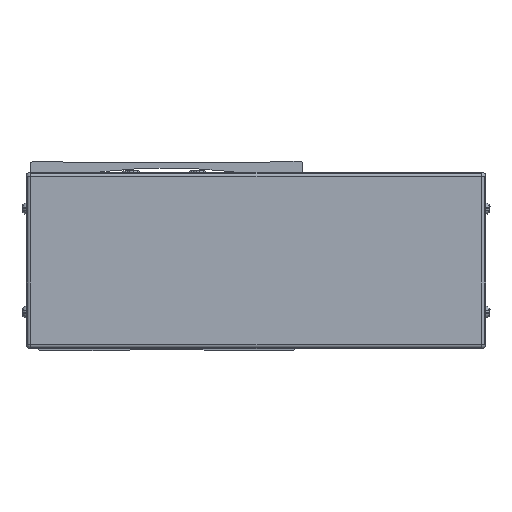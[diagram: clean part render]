
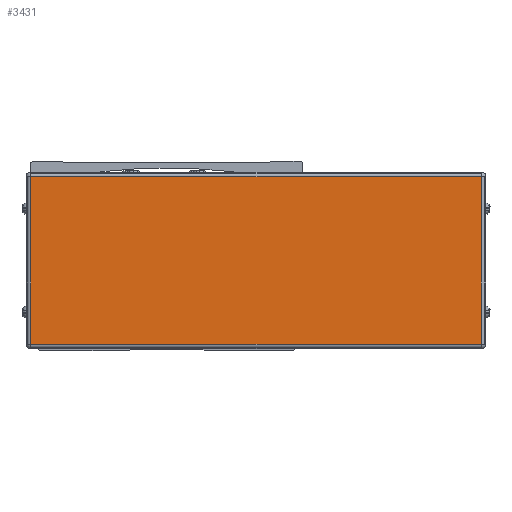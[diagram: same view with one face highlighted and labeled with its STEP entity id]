
A CAD part, front view. The second image highlights one B-rep face of the part: STEP entity #3431.
In plain terms, the highlighted planar face has unit normal (0, -1, 0).
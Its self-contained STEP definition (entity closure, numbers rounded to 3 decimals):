
#3431=ADVANCED_FACE('',(#8761),#8762,.T.);
#8761=FACE_OUTER_BOUND('',#16667,.T.);
#8762=PLANE('',#16668);
#16667=EDGE_LOOP('',(#27390,#27391,#27392,#27393));
#16668=AXIS2_PLACEMENT_3D('',#27394,#27395,#27396);
#27390=ORIENTED_EDGE('',*,*,#48296,.F.);
#27391=ORIENTED_EDGE('',*,*,#48297,.F.);
#27392=ORIENTED_EDGE('',*,*,#48298,.F.);
#27393=ORIENTED_EDGE('',*,*,#48299,.F.);
#27394=CARTESIAN_POINT('',(-259.5,-88.778,-8.));
#27395=DIRECTION('',(0.,-1.0,0.));
#27396=DIRECTION('',(1.0,0.,0.));
#48296=EDGE_CURVE('',#58460,#58461,#58462,.T.);
#48297=EDGE_CURVE('',#58463,#58460,#58464,.T.);
#48298=EDGE_CURVE('',#58465,#58463,#58466,.T.);
#48299=EDGE_CURVE('',#58461,#58465,#58467,.T.);
#58460=VERTEX_POINT('',#72714);
#58461=VERTEX_POINT('',#72715);
#58462=LINE('',#72716,#72717);
#58463=VERTEX_POINT('',#72718);
#58464=LINE('',#72719,#72720);
#58465=VERTEX_POINT('',#72721);
#58466=LINE('',#72722,#72723);
#58467=LINE('',#72724,#72725);
#72714=CARTESIAN_POINT('',(-157.3,-88.778,30.));
#72715=CARTESIAN_POINT('',(-157.3,-88.778,-46.));
#72716=CARTESIAN_POINT('',(-157.3,-88.778,-8.));
#72717=VECTOR('',#88706,10.0);
#72718=CARTESIAN_POINT('',(-361.7,-88.778,30.));
#72719=CARTESIAN_POINT('',(-259.5,-88.778,30.));
#72720=VECTOR('',#88707,10.0);
#72721=CARTESIAN_POINT('',(-361.7,-88.778,-46.));
#72722=CARTESIAN_POINT('',(-361.7,-88.778,-8.));
#72723=VECTOR('',#88708,10.0);
#72724=CARTESIAN_POINT('',(-259.5,-88.778,-46.));
#72725=VECTOR('',#88709,10.0);
#88706=DIRECTION('',(0.0,0.,-1.0));
#88707=DIRECTION('',(1.0,0.,0.));
#88708=DIRECTION('',(0.0,0.,1.0));
#88709=DIRECTION('',(-1.0,0.,0.));
